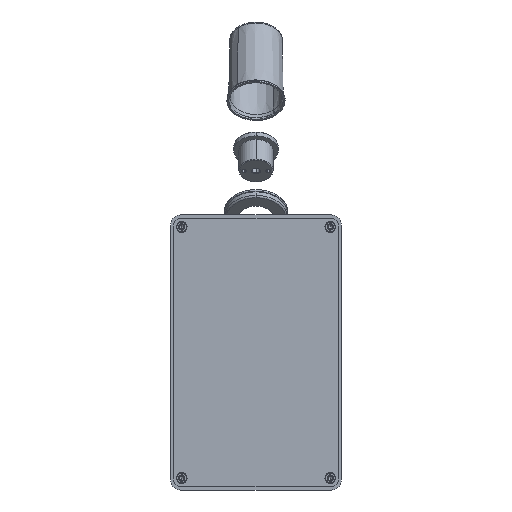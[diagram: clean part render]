
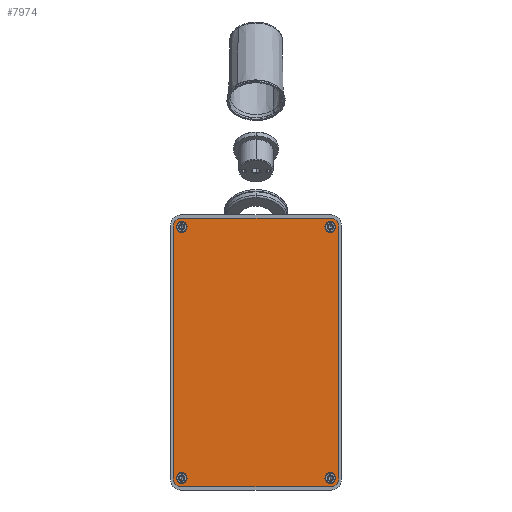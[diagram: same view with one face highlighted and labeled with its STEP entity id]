
A CAD part, front view. The second image highlights one B-rep face of the part: STEP entity #7974.
In plain terms, the highlighted planar face has unit normal (0, -1, 0) as drawn and (0, 1, 0) by its records, which use the part's own axes.
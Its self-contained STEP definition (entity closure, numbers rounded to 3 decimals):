
#15 = EDGE_CURVE ( 'NONE', #1385, #5805, #1572, .T. ) ;
#100 = AXIS2_PLACEMENT_3D ( 'NONE', #2476, #7984, #3349 ) ;
#230 = ORIENTED_EDGE ( 'NONE', *, *, #8927, .F. ) ;
#287 = CIRCLE ( 'NONE', #1918, 3.15 ) ;
#294 = CARTESIAN_POINT ( 'NONE',  ( -73.5, 0., -43.5 ) ) ;
#341 = CARTESIAN_POINT ( 'NONE',  ( -74., 0., -44. ) ) ;
#364 = VERTEX_POINT ( 'NONE', #6521 ) ;
#373 = PLANE ( 'NONE',  #7774 ) ;
#397 = EDGE_CURVE ( 'NONE', #3694, #7498, #6086, .T. ) ;
#405 = EDGE_CURVE ( 'NONE', #963, #1385, #9696, .T. ) ;
#444 = DIRECTION ( 'NONE',  ( 0., 0., 1. ) ) ;
#749 = ORIENTED_EDGE ( 'NONE', *, *, #3126, .T. ) ;
#860 = ORIENTED_EDGE ( 'NONE', *, *, #405, .T. ) ;
#877 = VERTEX_POINT ( 'NONE', #4123 ) ;
#889 = ORIENTED_EDGE ( 'NONE', *, *, #3312, .F. ) ;
#952 = AXIS2_PLACEMENT_3D ( 'NONE', #9707, #8215, #1899 ) ;
#963 = VERTEX_POINT ( 'NONE', #3541 ) ;
#1002 = EDGE_LOOP ( 'NONE', ( #7767, #6815 ) ) ;
#1083 = ORIENTED_EDGE ( 'NONE', *, *, #8867, .T. ) ;
#1148 = CARTESIAN_POINT ( 'NONE',  ( -74., 0., -48.5 ) ) ;
#1385 = VERTEX_POINT ( 'NONE', #8066 ) ;
#1398 = DIRECTION ( 'NONE',  ( 0., 1., 0. ) ) ;
#1417 = DIRECTION ( 'NONE',  ( 0., 1., 0. ) ) ;
#1449 = CARTESIAN_POINT ( 'NONE',  ( -73.5, 0., -40.35 ) ) ;
#1572 = CIRCLE ( 'NONE', #4823, 4.5 ) ;
#1649 = EDGE_CURVE ( 'NONE', #8186, #6046, #8987, .T. ) ;
#1848 = CARTESIAN_POINT ( 'NONE',  ( 73.5, 0., -46.65 ) ) ;
#1899 = DIRECTION ( 'NONE',  ( 0., 0., 1. ) ) ;
#1918 = AXIS2_PLACEMENT_3D ( 'NONE', #6685, #9860, #5135 ) ;
#1920 = CARTESIAN_POINT ( 'NONE',  ( -78.5, 0., -44. ) ) ;
#2029 = EDGE_LOOP ( 'NONE', ( #2644, #10149 ) ) ;
#2037 = EDGE_LOOP ( 'NONE', ( #4723, #4527, #749, #860, #8834, #1083, #7118, #6988 ) ) ;
#2066 = CIRCLE ( 'NONE', #100, 3.15 ) ;
#2208 = AXIS2_PLACEMENT_3D ( 'NONE', #3633, #6011, #9129 ) ;
#2244 = DIRECTION ( 'NONE',  ( 0., 1., 0. ) ) ;
#2251 = CARTESIAN_POINT ( 'NONE',  ( 74., 0., -44. ) ) ;
#2365 = CARTESIAN_POINT ( 'NONE',  ( 73.5, 0., -40.35 ) ) ;
#2440 = CARTESIAN_POINT ( 'NONE',  ( -74., 0., 48.5 ) ) ;
#2476 = CARTESIAN_POINT ( 'NONE',  ( -73.5, 0., 43.5 ) ) ;
#2510 = CARTESIAN_POINT ( 'NONE',  ( -74., 0., 48.5 ) ) ;
#2611 = VERTEX_POINT ( 'NONE', #1848 ) ;
#2617 = FACE_BOUND ( 'NONE', #1002, .T. ) ;
#2644 = ORIENTED_EDGE ( 'NONE', *, *, #397, .F. ) ;
#2710 = VERTEX_POINT ( 'NONE', #1920 ) ;
#2753 = DIRECTION ( 'NONE',  ( 0., 0., 1. ) ) ;
#2770 = EDGE_CURVE ( 'NONE', #2611, #8356, #4545, .T. ) ;
#2787 = CARTESIAN_POINT ( 'NONE',  ( -74., 0., 44. ) ) ;
#2801 = CARTESIAN_POINT ( 'NONE',  ( 78.5, 0., -44. ) ) ;
#2826 = VERTEX_POINT ( 'NONE', #3417 ) ;
#2898 = DIRECTION ( 'NONE',  ( 0., 0., -1. ) ) ;
#2985 = LINE ( 'NONE', #7136, #9891 ) ;
#3012 = CARTESIAN_POINT ( 'NONE',  ( 73.5, 0., 43.5 ) ) ;
#3126 = EDGE_CURVE ( 'NONE', #2826, #963, #3681, .T. ) ;
#3219 = VERTEX_POINT ( 'NONE', #2440 ) ;
#3233 = DIRECTION ( 'NONE',  ( 0., 0., 1. ) ) ;
#3312 = EDGE_CURVE ( 'NONE', #877, #6466, #2066, .T. ) ;
#3349 = DIRECTION ( 'NONE',  ( 0., 0., 1. ) ) ;
#3388 = AXIS2_PLACEMENT_3D ( 'NONE', #3012, #1417, #3777 ) ;
#3417 = CARTESIAN_POINT ( 'NONE',  ( 74., 0., 48.5 ) ) ;
#3541 = CARTESIAN_POINT ( 'NONE',  ( 78.5, 0., 44. ) ) ;
#3556 = DIRECTION ( 'NONE',  ( 0., 0., 1. ) ) ;
#3633 = CARTESIAN_POINT ( 'NONE',  ( 73.5, 0., -43.5 ) ) ;
#3640 = EDGE_CURVE ( 'NONE', #3219, #2826, #5143, .T. ) ;
#3641 = DIRECTION ( 'NONE',  ( 0., 1., 0. ) ) ;
#3661 = VECTOR ( 'NONE', #6337, 1000. ) ;
#3681 = CIRCLE ( 'NONE', #9664, 4.5 ) ;
#3694 = VERTEX_POINT ( 'NONE', #5773 ) ;
#3706 = DIRECTION ( 'NONE',  ( 0., 0., 1. ) ) ;
#3708 = CIRCLE ( 'NONE', #6120, 3.15 ) ;
#3777 = DIRECTION ( 'NONE',  ( 0., 0., 1. ) ) ;
#3857 = CARTESIAN_POINT ( 'NONE',  ( -73.5, 0., 46.65 ) ) ;
#4123 = CARTESIAN_POINT ( 'NONE',  ( -73.5, 0., 40.35 ) ) ;
#4176 = DIRECTION ( 'NONE',  ( 0., 0., 1. ) ) ;
#4527 = ORIENTED_EDGE ( 'NONE', *, *, #3640, .T. ) ;
#4545 = CIRCLE ( 'NONE', #2208, 3.15 ) ;
#4723 = ORIENTED_EDGE ( 'NONE', *, *, #9595, .T. ) ;
#4823 = AXIS2_PLACEMENT_3D ( 'NONE', #2251, #10001, #8436 ) ;
#4907 = CARTESIAN_POINT ( 'NONE',  ( -73.5, 0., -46.65 ) ) ;
#5135 = DIRECTION ( 'NONE',  ( 0., 0., 1. ) ) ;
#5143 = LINE ( 'NONE', #2510, #3661 ) ;
#5271 = DIRECTION ( 'NONE',  ( 0., 1., 0. ) ) ;
#5463 = CARTESIAN_POINT ( 'NONE',  ( 73.5, 0., -43.5 ) ) ;
#5498 = DIRECTION ( 'NONE',  ( 0., 0., 1. ) ) ;
#5535 = LINE ( 'NONE', #9467, #9988 ) ;
#5706 = AXIS2_PLACEMENT_3D ( 'NONE', #294, #9657, #4176 ) ;
#5773 = CARTESIAN_POINT ( 'NONE',  ( 73.5, 0., 46.65 ) ) ;
#5805 = VERTEX_POINT ( 'NONE', #6770 ) ;
#5896 = ORIENTED_EDGE ( 'NONE', *, *, #2770, .F. ) ;
#6011 = DIRECTION ( 'NONE',  ( 0., 1., 0. ) ) ;
#6042 = EDGE_CURVE ( 'NONE', #6046, #8186, #6547, .T. ) ;
#6046 = VERTEX_POINT ( 'NONE', #4907 ) ;
#6086 = CIRCLE ( 'NONE', #6312, 3.15 ) ;
#6120 = AXIS2_PLACEMENT_3D ( 'NONE', #5463, #2244, #5498 ) ;
#6205 = DIRECTION ( 'NONE',  ( -1., 0., 0. ) ) ;
#6312 = AXIS2_PLACEMENT_3D ( 'NONE', #9953, #5271, #3556 ) ;
#6337 = DIRECTION ( 'NONE',  ( 1., 0., 0. ) ) ;
#6393 = FACE_OUTER_BOUND ( 'NONE', #2037, .T. ) ;
#6410 = EDGE_LOOP ( 'NONE', ( #230, #5896 ) ) ;
#6466 = VERTEX_POINT ( 'NONE', #3857 ) ;
#6521 = CARTESIAN_POINT ( 'NONE',  ( -78.5, 0., 44. ) ) ;
#6547 = CIRCLE ( 'NONE', #5706, 3.15 ) ;
#6576 = DIRECTION ( 'NONE',  ( 0., 1., 0. ) ) ;
#6685 = CARTESIAN_POINT ( 'NONE',  ( -73.5, 0., 43.5 ) ) ;
#6708 = AXIS2_PLACEMENT_3D ( 'NONE', #341, #9004, #2753 ) ;
#6770 = CARTESIAN_POINT ( 'NONE',  ( 74., 0., -48.5 ) ) ;
#6815 = ORIENTED_EDGE ( 'NONE', *, *, #6042, .F. ) ;
#6860 = DIRECTION ( 'NONE',  ( 0., 0., 1. ) ) ;
#6896 = EDGE_LOOP ( 'NONE', ( #6998, #889 ) ) ;
#6988 = ORIENTED_EDGE ( 'NONE', *, *, #7752, .T. ) ;
#6998 = ORIENTED_EDGE ( 'NONE', *, *, #7434, .F. ) ;
#7021 = FACE_BOUND ( 'NONE', #6410, .T. ) ;
#7118 = ORIENTED_EDGE ( 'NONE', *, *, #7944, .T. ) ;
#7136 = CARTESIAN_POINT ( 'NONE',  ( -78.5, 0., -44. ) ) ;
#7306 = VERTEX_POINT ( 'NONE', #1148 ) ;
#7434 = EDGE_CURVE ( 'NONE', #6466, #877, #287, .T. ) ;
#7498 = VERTEX_POINT ( 'NONE', #7688 ) ;
#7526 = CIRCLE ( 'NONE', #6708, 4.5 ) ;
#7688 = CARTESIAN_POINT ( 'NONE',  ( 73.5, 0., 40.35 ) ) ;
#7752 = EDGE_CURVE ( 'NONE', #2710, #364, #2985, .T. ) ;
#7759 = CIRCLE ( 'NONE', #3388, 3.15 ) ;
#7766 = CARTESIAN_POINT ( 'NONE',  ( -73.5, 0., -43.5 ) ) ;
#7767 = ORIENTED_EDGE ( 'NONE', *, *, #1649, .F. ) ;
#7774 = AXIS2_PLACEMENT_3D ( 'NONE', #2787, #6576, #444 ) ;
#7944 = EDGE_CURVE ( 'NONE', #7306, #2710, #7526, .T. ) ;
#7974 = ADVANCED_FACE ( 'NONE', ( #2617, #7021, #8891, #8625, #6393 ), #373, .T. ) ;
#7984 = DIRECTION ( 'NONE',  ( 0., 1., 0. ) ) ;
#8008 = CIRCLE ( 'NONE', #952, 4.5 ) ;
#8066 = CARTESIAN_POINT ( 'NONE',  ( 78.5, 0., -44. ) ) ;
#8186 = VERTEX_POINT ( 'NONE', #1449 ) ;
#8188 = EDGE_CURVE ( 'NONE', #7498, #3694, #7759, .T. ) ;
#8215 = DIRECTION ( 'NONE',  ( 0., 1., 0. ) ) ;
#8346 = CARTESIAN_POINT ( 'NONE',  ( 74., 0., 44. ) ) ;
#8356 = VERTEX_POINT ( 'NONE', #2365 ) ;
#8436 = DIRECTION ( 'NONE',  ( 0., 0., 1. ) ) ;
#8625 = FACE_BOUND ( 'NONE', #6896, .T. ) ;
#8834 = ORIENTED_EDGE ( 'NONE', *, *, #15, .T. ) ;
#8867 = EDGE_CURVE ( 'NONE', #5805, #7306, #5535, .T. ) ;
#8891 = FACE_BOUND ( 'NONE', #2029, .T. ) ;
#8927 = EDGE_CURVE ( 'NONE', #8356, #2611, #3708, .T. ) ;
#8987 = CIRCLE ( 'NONE', #9979, 3.15 ) ;
#9004 = DIRECTION ( 'NONE',  ( 0., 1., 0. ) ) ;
#9129 = DIRECTION ( 'NONE',  ( 0., 0., 1. ) ) ;
#9467 = CARTESIAN_POINT ( 'NONE',  ( -74., 0., -48.5 ) ) ;
#9595 = EDGE_CURVE ( 'NONE', #364, #3219, #8008, .T. ) ;
#9657 = DIRECTION ( 'NONE',  ( 0., 1., 0. ) ) ;
#9664 = AXIS2_PLACEMENT_3D ( 'NONE', #8346, #3641, #3706 ) ;
#9696 = LINE ( 'NONE', #2801, #9941 ) ;
#9707 = CARTESIAN_POINT ( 'NONE',  ( -74., 0., 44. ) ) ;
#9860 = DIRECTION ( 'NONE',  ( 0., 1., 0. ) ) ;
#9891 = VECTOR ( 'NONE', #3233, 1000. ) ;
#9941 = VECTOR ( 'NONE', #2898, 1000. ) ;
#9953 = CARTESIAN_POINT ( 'NONE',  ( 73.5, 0., 43.5 ) ) ;
#9979 = AXIS2_PLACEMENT_3D ( 'NONE', #7766, #1398, #6860 ) ;
#9988 = VECTOR ( 'NONE', #6205, 1000. ) ;
#10001 = DIRECTION ( 'NONE',  ( 0., 1., 0. ) ) ;
#10149 = ORIENTED_EDGE ( 'NONE', *, *, #8188, .F. ) ;
